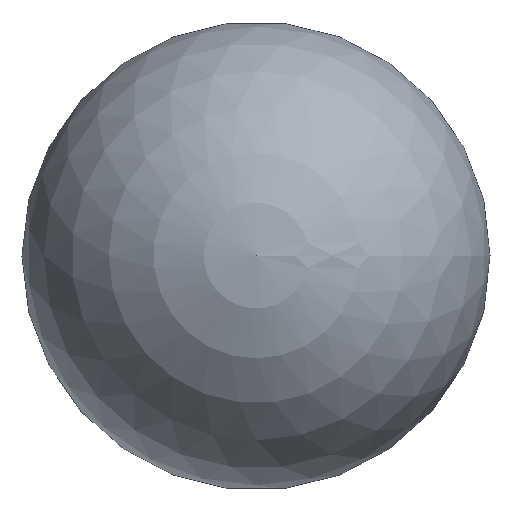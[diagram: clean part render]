
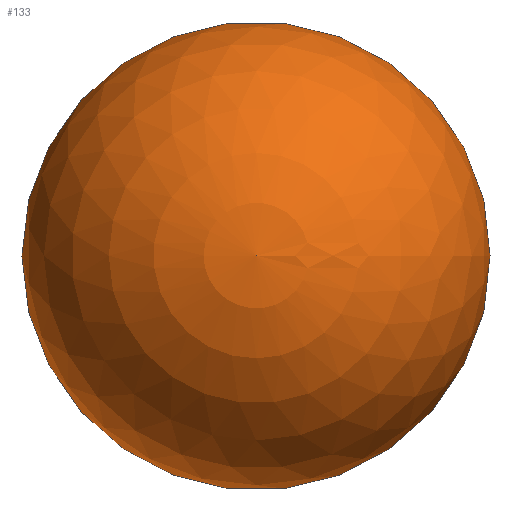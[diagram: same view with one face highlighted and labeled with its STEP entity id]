
A CAD part, top view. The second image highlights one B-rep face of the part: STEP entity #133.
In plain terms, the highlighted spherical face has radius 2.5 mm.
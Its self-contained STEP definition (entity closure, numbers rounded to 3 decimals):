
#31 = CYLINDRICAL_SURFACE('',#32,1.5);
#32 = AXIS2_PLACEMENT_3D('',#33,#34,#35);
#33 = CARTESIAN_POINT('',(0.,0.,24.5));
#34 = DIRECTION('',(-0.,0.,-1.));
#35 = DIRECTION('',(0.,1.,0.));
#56 = VERTEX_POINT('',#57);
#57 = CARTESIAN_POINT('',(0.,1.5,27.5));
#78 = EDGE_CURVE('',#79,#56,#81,.T.);
#79 = VERTEX_POINT('',#80);
#80 = CARTESIAN_POINT('',(1.5,0.,27.5));
#81 = SURFACE_CURVE('',#82,(#87,#94),.PCURVE_S1.);
#82 = CIRCLE('',#83,1.5);
#83 = AXIS2_PLACEMENT_3D('',#84,#85,#86);
#84 = CARTESIAN_POINT('',(0.,0.,27.5));
#85 = DIRECTION('',(-0.,0.,-1.));
#86 = DIRECTION('',(0.,1.,0.));
#87 = PCURVE('',#31,#88);
#88 = DEFINITIONAL_REPRESENTATION('',(#89),#93);
#89 = LINE('',#90,#91);
#90 = CARTESIAN_POINT('',(-6.283,-3.));
#91 = VECTOR('',#92,1.);
#92 = DIRECTION('',(1.,-0.));
#93 = ( GEOMETRIC_REPRESENTATION_CONTEXT(2) 
PARAMETRIC_REPRESENTATION_CONTEXT() REPRESENTATION_CONTEXT('2D SPACE',''
  ) );
#94 = PCURVE('',#95,#100);
#95 = SPHERICAL_SURFACE('',#96,2.5);
#96 = AXIS2_PLACEMENT_3D('',#97,#98,#99);
#97 = CARTESIAN_POINT('',(0.,0.,29.5));
#98 = DIRECTION('',(0.,0.,1.));
#99 = DIRECTION('',(1.,0.,0.));
#100 = DEFINITIONAL_REPRESENTATION('',(#101),#105);
#101 = LINE('',#102,#103);
#102 = CARTESIAN_POINT('',(7.854,-0.927));
#103 = VECTOR('',#104,1.);
#104 = DIRECTION('',(-1.,0.));
#105 = ( GEOMETRIC_REPRESENTATION_CONTEXT(2) 
PARAMETRIC_REPRESENTATION_CONTEXT() REPRESENTATION_CONTEXT('2D SPACE',''
  ) );
#107 = EDGE_CURVE('',#56,#79,#108,.T.);
#108 = SURFACE_CURVE('',#109,(#114,#121),.PCURVE_S1.);
#109 = CIRCLE('',#110,1.5);
#110 = AXIS2_PLACEMENT_3D('',#111,#112,#113);
#111 = CARTESIAN_POINT('',(0.,0.,27.5));
#112 = DIRECTION('',(-0.,0.,-1.));
#113 = DIRECTION('',(0.,1.,0.));
#114 = PCURVE('',#31,#115);
#115 = DEFINITIONAL_REPRESENTATION('',(#116),#120);
#116 = LINE('',#117,#118);
#117 = CARTESIAN_POINT('',(-6.283,-3.));
#118 = VECTOR('',#119,1.);
#119 = DIRECTION('',(1.,-0.));
#120 = ( GEOMETRIC_REPRESENTATION_CONTEXT(2) 
PARAMETRIC_REPRESENTATION_CONTEXT() REPRESENTATION_CONTEXT('2D SPACE',''
  ) );
#121 = PCURVE('',#95,#122);
#122 = DEFINITIONAL_REPRESENTATION('',(#123),#127);
#123 = LINE('',#124,#125);
#124 = CARTESIAN_POINT('',(1.571,-0.927));
#125 = VECTOR('',#126,1.);
#126 = DIRECTION('',(-1.,0.));
#127 = ( GEOMETRIC_REPRESENTATION_CONTEXT(2) 
PARAMETRIC_REPRESENTATION_CONTEXT() REPRESENTATION_CONTEXT('2D SPACE',''
  ) );
#133 = ADVANCED_FACE('',(#134),#95,.T.);
#134 = FACE_BOUND('',#135,.T.);
#135 = EDGE_LOOP('',(#136,#160,#161,#162));
#136 = ORIENTED_EDGE('',*,*,#137,.T.);
#137 = EDGE_CURVE('',#79,#138,#140,.T.);
#138 = VERTEX_POINT('',#139);
#139 = CARTESIAN_POINT('',(0.,0.,32.));
#140 = SEAM_CURVE('',#141,(#146,#153),.PCURVE_S1.);
#141 = CIRCLE('',#142,2.5);
#142 = AXIS2_PLACEMENT_3D('',#143,#144,#145);
#143 = CARTESIAN_POINT('',(0.,0.,29.5));
#144 = DIRECTION('',(0.,-1.,0.));
#145 = DIRECTION('',(1.,0.,0.));
#146 = PCURVE('',#95,#147);
#147 = DEFINITIONAL_REPRESENTATION('',(#148),#152);
#148 = LINE('',#149,#150);
#149 = CARTESIAN_POINT('',(6.283,-6.283));
#150 = VECTOR('',#151,1.);
#151 = DIRECTION('',(0.,1.));
#152 = ( GEOMETRIC_REPRESENTATION_CONTEXT(2) 
PARAMETRIC_REPRESENTATION_CONTEXT() REPRESENTATION_CONTEXT('2D SPACE',''
  ) );
#153 = PCURVE('',#95,#154);
#154 = DEFINITIONAL_REPRESENTATION('',(#155),#159);
#155 = LINE('',#156,#157);
#156 = CARTESIAN_POINT('',(0.,-6.283));
#157 = VECTOR('',#158,1.);
#158 = DIRECTION('',(0.,1.));
#159 = ( GEOMETRIC_REPRESENTATION_CONTEXT(2) 
PARAMETRIC_REPRESENTATION_CONTEXT() REPRESENTATION_CONTEXT('2D SPACE',''
  ) );
#160 = ORIENTED_EDGE('',*,*,#137,.F.);
#161 = ORIENTED_EDGE('',*,*,#107,.F.);
#162 = ORIENTED_EDGE('',*,*,#78,.F.);
